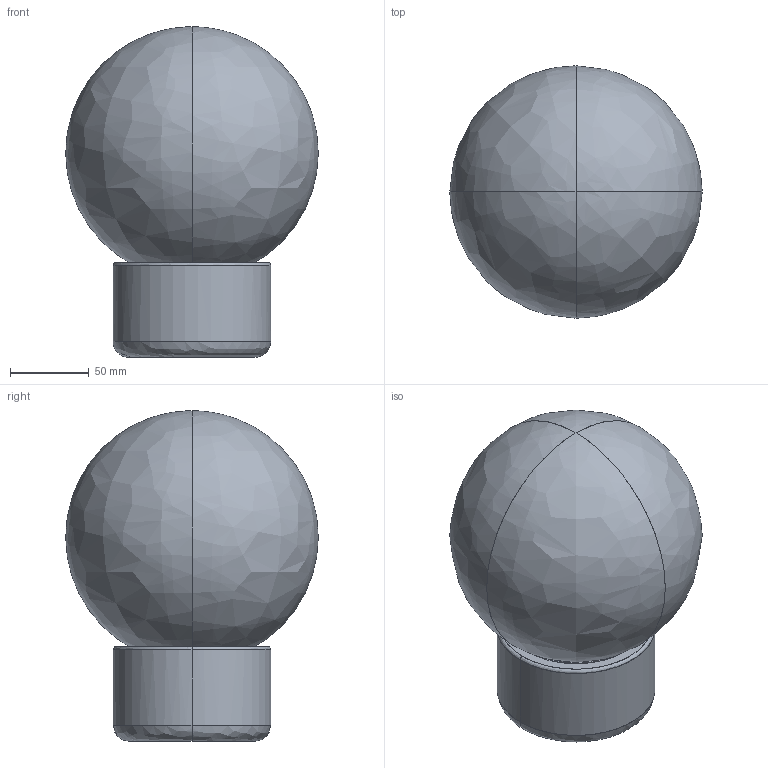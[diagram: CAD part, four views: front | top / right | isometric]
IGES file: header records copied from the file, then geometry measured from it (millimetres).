
Start section: Comment
Global section: file name: Base assemblata.igs; native system:  By UGS Corp.; preprocessor: XPlus GENERIC/IGES 3.0; author: Author; organization: Title; date: 20240509.094905; units: inch
Bounding box: 160 x 160 x 209.42 mm (x, y, z)
Surface area: 218670.9 mm2 (no closed solid volume)
Topology: 0 solids, 0 shells, 285 faces, 1418 edges, 1406 vertices
Faces by surface type: bspline 285
